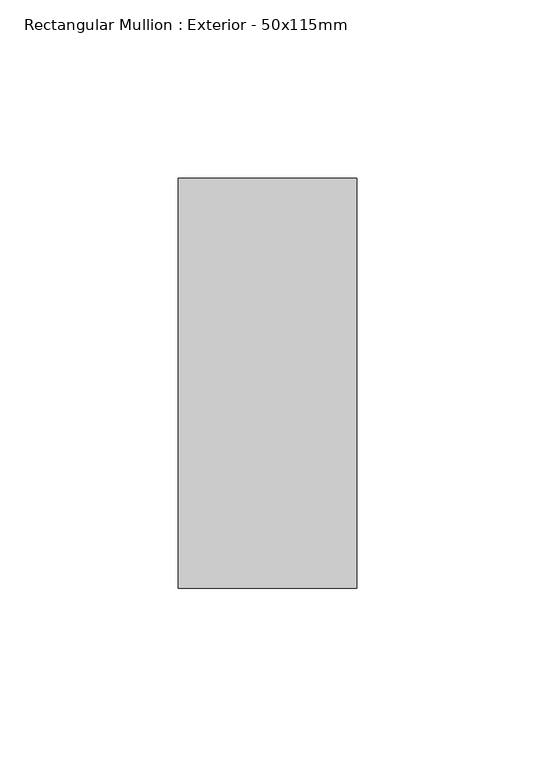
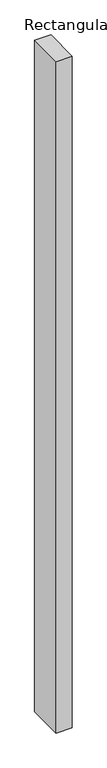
"""IFC4 building model written with IfcOpenShell, lengths in millimetres: member geometry, Rectangular Mullion : Exterior - 50x115mm."""

from ifc_helpers import new_model, si_unit, frame, origin, place, context, project, spatial, polyline, outline, extrude, source, transform, mapped, element, save


def rectangular_mullion_exterior_50x115mm_ee095215(model_context):
    return source(origin(), model_context, "Body", "SweptSolid", [
        extrude(outline(polyline([(0.0, 107.5), (0.0, -7.5), (-50.0, -7.5), (-50.0, 107.5), (0.0, 107.5)])), frame((0.0, 0.0, -2200.0), z_axis=(0.0, 0.0, 1.0), x_axis=(1.0, 0.0, 0.0)), (0.0, 0.0, 1.0), 2200.0),
    ])


if __name__ == "__main__":
    model = new_model("IFC4")
    model_context = context("Model", 3, world=origin())
    ifc_project = project(units=[si_unit("LENGTHUNIT", "METRE", prefix="MILLI")], contexts=[model_context])
    site = spatial("IfcSite", under=ifc_project)
    building = spatial("IfcBuilding", under=site)
    placement = place(None, origin())
    rectangular_mullion_exterior_50x115mm_shape = rectangular_mullion_exterior_50x115mm_ee095215(model_context)
    element("IfcMember", 1, ObjectType="Rectangular Mullion : Exterior - 50x115mm", at=placement, inside=building, context=model_context, shape_type="MappedRepresentation", body=[
        mapped(rectangular_mullion_exterior_50x115mm_shape, transform((0.0, 0.0, 0.0), x_axis=(1.0, 0.0, 0.0), y_axis=(0.0, 1.0, 0.0), z_axis=(0.0, 0.0, 1.0))),
    ])
    save(model, "model.ifc")
